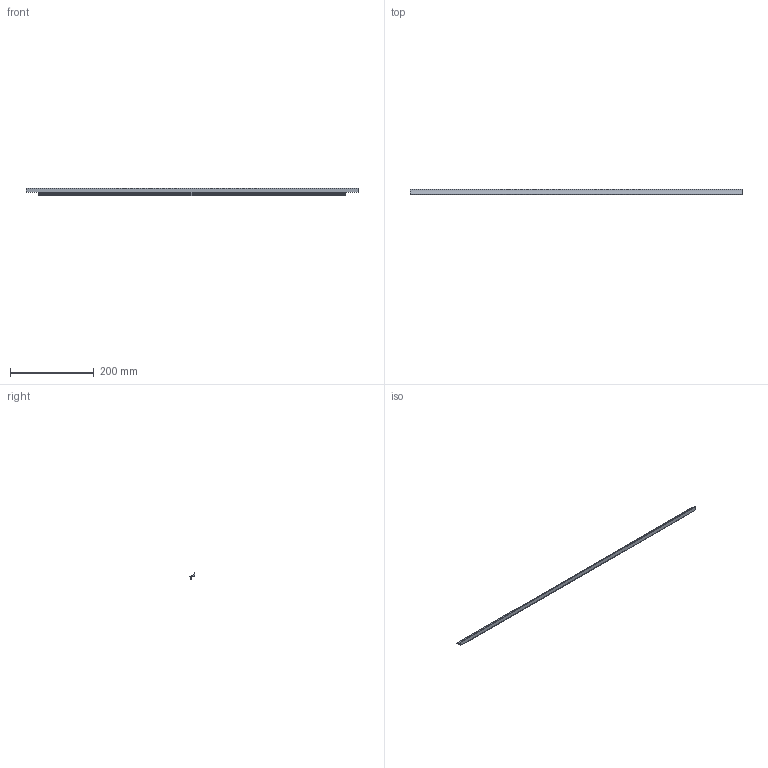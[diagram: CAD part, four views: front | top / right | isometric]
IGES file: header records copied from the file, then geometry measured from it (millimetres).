
Start section: Data from Parasolid IGES Translator 20.0.26, Copyright(c) 2006 Siemens P LM Software. All Rights Reserved.
Global section: file name: 9208094.igs; native system: By Siemens PLM Incorporated; preprocessor: XPlus GENERIC/IGES 20.0.26; author: Noname; organization: Noname; date: 20230313.143608; units: millimetre
Bounding box: 795 x 12.49 x 18 mm (x, y, z)
Surface area: 46357.3 mm2 (no closed solid volume)
Topology: 0 solids, 0 shells, 29 faces, 156 edges, 156 vertices
Faces by surface type: extrusion 25, revolution 4
